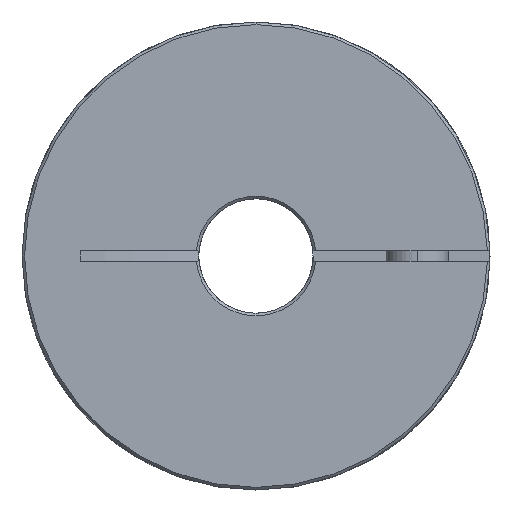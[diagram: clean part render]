
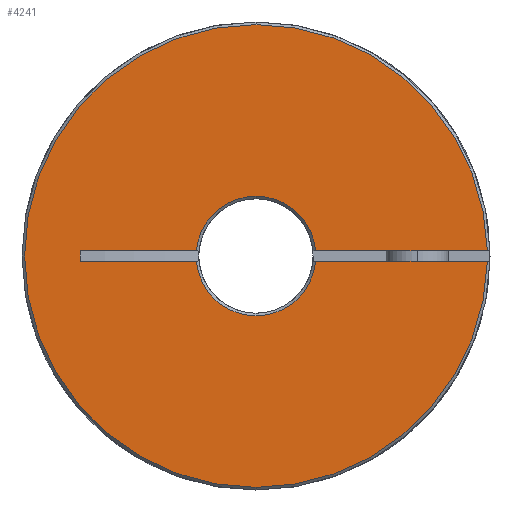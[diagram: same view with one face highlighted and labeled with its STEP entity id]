
A CAD part, left-side view. The second image highlights one B-rep face of the part: STEP entity #4241.
In plain terms, the highlighted planar face has unit normal (-1, 0, 0).
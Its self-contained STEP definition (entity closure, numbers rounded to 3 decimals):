
#6 = EDGE_CURVE ( 'NONE', #868, #830, #1316, .T. ) ;
#19 = ORIENTED_EDGE ( 'NONE', *, *, #1105, .T. ) ;
#43 = ORIENTED_EDGE ( 'NONE', *, *, #197, .T. ) ;
#77 = VERTEX_POINT ( 'NONE', #1675 ) ;
#126 = ORIENTED_EDGE ( 'NONE', *, *, #1209, .T. ) ;
#154 = VERTEX_POINT ( 'NONE', #2134 ) ;
#181 = VERTEX_POINT ( 'NONE', #2326 ) ;
#197 = EDGE_CURVE ( 'NONE', #77, #181, #2466, .T. ) ;
#245 = ORIENTED_EDGE ( 'NONE', *, *, #1038, .T. ) ;
#258 = ORIENTED_EDGE ( 'NONE', *, *, #1711, .T. ) ;
#288 = VERTEX_POINT ( 'NONE', #3329 ) ;
#379 = EDGE_CURVE ( 'NONE', #154, #181, #4109, .T. ) ;
#392 = ORIENTED_EDGE ( 'NONE', *, *, #379, .F. ) ;
#491 = VERTEX_POINT ( 'NONE', #4649 ) ;
#511 = EDGE_CURVE ( 'NONE', #898, #491, #1905, .T. ) ;
#538 = EDGE_CURVE ( 'NONE', #77, #1224, #2106, .T. ) ;
#559 = ORIENTED_EDGE ( 'NONE', *, *, #538, .F. ) ;
#648 = EDGE_CURVE ( 'NONE', #491, #288, #2925, .T. ) ;
#830 = VERTEX_POINT ( 'NONE', #3975 ) ;
#868 = VERTEX_POINT ( 'NONE', #4151 ) ;
#898 = VERTEX_POINT ( 'NONE', #4216 ) ;
#940 = ORIENTED_EDGE ( 'NONE', *, *, #6, .T. ) ;
#1038 = EDGE_CURVE ( 'NONE', #288, #868, #1891, .T. ) ;
#1068 = VERTEX_POINT ( 'NONE', #2184 ) ;
#1085 = VERTEX_POINT ( 'NONE', #2316 ) ;
#1105 = EDGE_CURVE ( 'NONE', #1085, #898, #2477, .T. ) ;
#1157 = ORIENTED_EDGE ( 'NONE', *, *, #648, .T. ) ;
#1159 = ORIENTED_EDGE ( 'NONE', *, *, #1245, .T. ) ;
#1209 = EDGE_CURVE ( 'NONE', #1068, #1085, #3429, .T. ) ;
#1224 = VERTEX_POINT ( 'NONE', #3505 ) ;
#1245 = EDGE_CURVE ( 'NONE', #830, #1224, #3637, .T. ) ;
#1316 = CIRCLE ( 'NONE', #1317, 44.5 ) ;
#1317 = AXIS2_PLACEMENT_3D ( 'NONE', #1319, #1320, #1321 ) ;
#1319 = CARTESIAN_POINT ( 'NONE',  ( 0., 0., 0. ) ) ;
#1320 = DIRECTION ( 'NONE',  ( -1., 0., 0. ) ) ;
#1321 = DIRECTION ( 'NONE',  ( 0., 0., -1. ) ) ;
#1642 = ORIENTED_EDGE ( 'NONE', *, *, #511, .T. ) ;
#1675 = CARTESIAN_POINT ( 'NONE',  ( 0., -11.456, -1. ) ) ;
#1711 = EDGE_CURVE ( 'NONE', #154, #1068, #4301, .T. ) ;
#1891 = CIRCLE ( 'NONE', #1892, 44.5 ) ;
#1892 = AXIS2_PLACEMENT_3D ( 'NONE', #1893, #1894, #1895 ) ;
#1893 = CARTESIAN_POINT ( 'NONE',  ( 0., 0., 0. ) ) ;
#1894 = DIRECTION ( 'NONE',  ( -1., 0., 0. ) ) ;
#1895 = DIRECTION ( 'NONE',  ( 0., 0., -1. ) ) ;
#1905 = CIRCLE ( 'NONE', #1906, 11.5 ) ;
#1906 = AXIS2_PLACEMENT_3D ( 'NONE', #1907, #1908, #1909 ) ;
#1907 = CARTESIAN_POINT ( 'NONE',  ( 0., 0., 0. ) ) ;
#1908 = DIRECTION ( 'NONE',  ( 1., 0., 0. ) ) ;
#1909 = DIRECTION ( 'NONE',  ( 0., 0., -1. ) ) ;
#2106 = LINE ( 'NONE', #2107, #2108 ) ;
#2107 = CARTESIAN_POINT ( 'NONE',  ( 0., 11., -1. ) ) ;
#2108 = VECTOR ( 'NONE', #2109, 1000. ) ;
#2109 = DIRECTION ( 'NONE',  ( 0., -1., 0. ) ) ;
#2134 = CARTESIAN_POINT ( 'NONE',  ( 0., 33.786, -1. ) ) ;
#2184 = CARTESIAN_POINT ( 'NONE',  ( 0., 33.786, 1. ) ) ;
#2316 = CARTESIAN_POINT ( 'NONE',  ( 0., 11.456, 1. ) ) ;
#2326 = CARTESIAN_POINT ( 'NONE',  ( 0., 11.456, -1. ) ) ;
#2466 = CIRCLE ( 'NONE', #2467, 11.5 ) ;
#2467 = AXIS2_PLACEMENT_3D ( 'NONE', #2468, #2469, #2470 ) ;
#2468 = CARTESIAN_POINT ( 'NONE',  ( 0., 0., 0. ) ) ;
#2469 = DIRECTION ( 'NONE',  ( 1., 0., 0. ) ) ;
#2470 = DIRECTION ( 'NONE',  ( 0., 0., -1. ) ) ;
#2477 = CIRCLE ( 'NONE', #2478, 11.5 ) ;
#2478 = AXIS2_PLACEMENT_3D ( 'NONE', #2481, #2482, #2483 ) ;
#2481 = CARTESIAN_POINT ( 'NONE',  ( 0., 0., 0. ) ) ;
#2482 = DIRECTION ( 'NONE',  ( 1., 0., 0. ) ) ;
#2483 = DIRECTION ( 'NONE',  ( 0., 0., -1. ) ) ;
#2925 = LINE ( 'NONE', #2926, #2927 ) ;
#2926 = CARTESIAN_POINT ( 'NONE',  ( 0., 11., 1. ) ) ;
#2927 = VECTOR ( 'NONE', #2931, 1000. ) ;
#2931 = DIRECTION ( 'NONE',  ( 0., -1., 0. ) ) ;
#2977 = FACE_OUTER_BOUND ( 'NONE', #4313, .T. ) ;
#2978 = PLANE ( 'NONE',  #2979 ) ;
#2979 = AXIS2_PLACEMENT_3D ( 'NONE', #2980, #2981, #2982 ) ;
#2980 = CARTESIAN_POINT ( 'NONE',  ( 0., 11., 0. ) ) ;
#2981 = DIRECTION ( 'NONE',  ( 1., 0., 0. ) ) ;
#2982 = DIRECTION ( 'NONE',  ( 0., 0., -1. ) ) ;
#3329 = CARTESIAN_POINT ( 'NONE',  ( 0., -44.489, 1. ) ) ;
#3429 = LINE ( 'NONE', #3430, #3431 ) ;
#3430 = CARTESIAN_POINT ( 'NONE',  ( 0., 11., 1. ) ) ;
#3431 = VECTOR ( 'NONE', #3432, 1000. ) ;
#3432 = DIRECTION ( 'NONE',  ( 0., -1., 0. ) ) ;
#3505 = CARTESIAN_POINT ( 'NONE',  ( 0., -44.489, -1. ) ) ;
#3637 = CIRCLE ( 'NONE', #3638, 44.5 ) ;
#3638 = AXIS2_PLACEMENT_3D ( 'NONE', #3639, #3640, #3641 ) ;
#3639 = CARTESIAN_POINT ( 'NONE',  ( 0., 0., 0. ) ) ;
#3640 = DIRECTION ( 'NONE',  ( -1., 0., 0. ) ) ;
#3641 = DIRECTION ( 'NONE',  ( 0., 0., -1. ) ) ;
#3975 = CARTESIAN_POINT ( 'NONE',  ( 0., 0., -44.5 ) ) ;
#4109 = LINE ( 'NONE', #4110, #4111 ) ;
#4110 = CARTESIAN_POINT ( 'NONE',  ( 0., 11., -1. ) ) ;
#4111 = VECTOR ( 'NONE', #4112, 1000. ) ;
#4112 = DIRECTION ( 'NONE',  ( 0., -1., 0. ) ) ;
#4151 = CARTESIAN_POINT ( 'NONE',  ( 0., 0., 44.5 ) ) ;
#4216 = CARTESIAN_POINT ( 'NONE',  ( 0., 0., 11.5 ) ) ;
#4241 = ADVANCED_FACE ( 'NONE', ( #2977 ), #2978, .F. ) ;
#4301 = LINE ( 'NONE', #4302, #4303 ) ;
#4302 = CARTESIAN_POINT ( 'NONE',  ( 0., 33.786, -1. ) ) ;
#4303 = VECTOR ( 'NONE', #4304, 1000. ) ;
#4304 = DIRECTION ( 'NONE',  ( 0., 0., 1. ) ) ;
#4313 = EDGE_LOOP ( 'NONE', ( #126, #19, #1642, #1157, #245, #940, #1159, #559, #43, #392, #258 ) ) ;
#4649 = CARTESIAN_POINT ( 'NONE',  ( 0., -11.456, 1. ) ) ;
